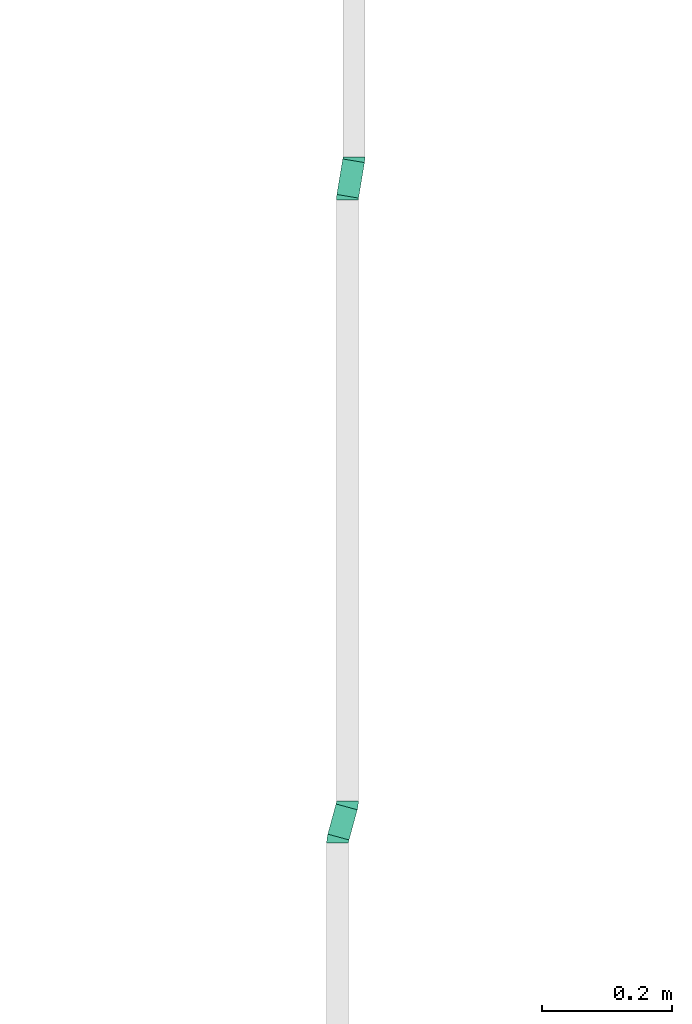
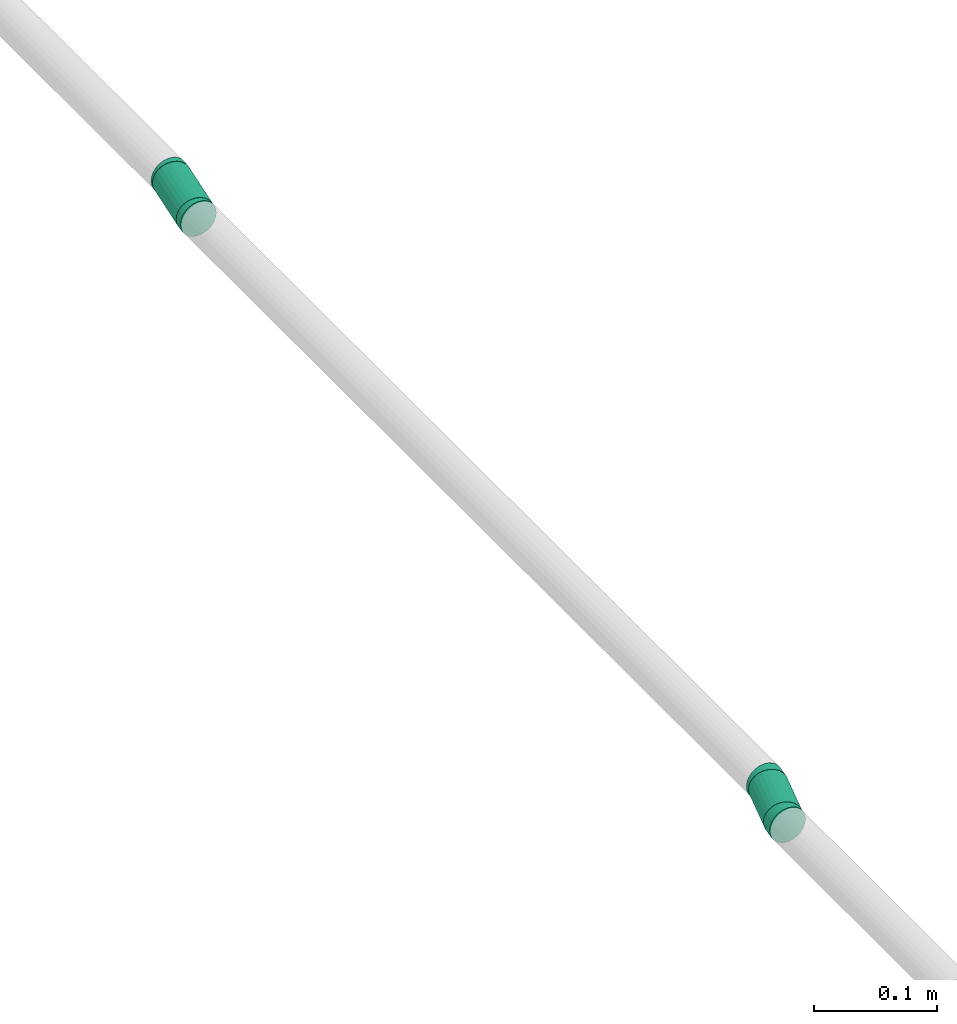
# One storey, part 15 of 32: 4 flow fittings, 2 flow segments.
"""IFC2X3 building model written with IfcOpenShell, lengths in millimetres."""

from ifc_helpers import new_model, entity, si_unit, converted_unit, derived_unit, direction, frame, origin_with_axes, origin_2d_with_axis, place, context, subcontext, project, spatial, hollow_circle, extrude, open_shell, surface_model, source, transform, mapped, type_object, element, save


model = new_model("IFC2X3")

# Units and contexts
model_context = context("Model", 3, precision=0.01, world=frame((0.0, 4.29681676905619e-09, 0.0)), true_north=direction((4.01073788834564e-13, 1.0)))
plan_context = context("Plan", 3, precision=0.01, world=frame((0.0, 4.29681676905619e-09, 0.0)), true_north=direction((4.01073788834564e-13, 1.0)))
body_context = subcontext(model_context, "Body", "Model", "MODEL_VIEW")
ifc_project = project(units=[converted_unit("PLANEANGLEUNIT", "DEGREE", entity("IfcPositiveLengthMeasure", 0.0174532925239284), si_unit("PLANEANGLEUNIT", "RADIAN"), dimensions=[0, 0, 0, 0, 0, 0, 0]), si_unit("AREAUNIT", "SQUARE_METRE"), si_unit("LENGTHUNIT", "METRE", prefix="MILLI"), si_unit("MASSUNIT", "GRAM", prefix="KILO"), si_unit("POWERUNIT", "WATT"), si_unit("PRESSUREUNIT", "PASCAL", prefix="KILO"), si_unit("FORCEUNIT", "NEWTON", prefix="KILO"), si_unit("ELECTRICVOLTAGEUNIT", "VOLT"), si_unit("ELECTRICCURRENTUNIT", "AMPERE"), si_unit("THERMODYNAMICTEMPERATUREUNIT", "DEGREE_CELSIUS"), si_unit("TIMEUNIT", "SECOND"), si_unit("VOLUMEUNIT", "CUBIC_METRE"), derived_unit("LINEARVELOCITYUNIT", [(si_unit("LENGTHUNIT", "METRE"), 1), (si_unit("TIMEUNIT", "SECOND"), -1)]), derived_unit("VOLUMETRICFLOWRATEUNIT", [(si_unit("VOLUMEUNIT", "CUBIC_METRE"), 1), (si_unit("TIMEUNIT", "SECOND"), -1)]), derived_unit("THERMALTRANSMITTANCEUNIT", [(si_unit("POWERUNIT", "WATT"), 1), (si_unit("THERMODYNAMICTEMPERATUREUNIT", "KELVIN"), -1), (si_unit("AREAUNIT", "SQUARE_METRE"), -1)]), derived_unit("SOUNDPRESSUREUNIT", [(si_unit("PRESSUREUNIT", "PASCAL"), 1)])], contexts=[model_context, plan_context])

# Site, building, storey
site_placement = place(None, frame((0.0, -4.29681676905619e-09, 0.0), z_axis=(0.0, 0.0, 1.0), x_axis=(1.0, 0.0, 0.0)))
site = spatial("IfcSite", under=ifc_project, at=site_placement, CompositionType="ELEMENT")
building_placement = place(site_placement, frame((0.0, 4.29681676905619e-09, 0.0), z_axis=(0.0, 0.0, 1.0), x_axis=(1.0, 0.0, 0.0)))
building = spatial("IfcBuilding", under=site, at=building_placement, Name="mc-building", CompositionType="ELEMENT")
storey_placement = place(building_placement, frame((0.0, 0.0, 205200.0), z_axis=(0.0, 0.0, 1.0), x_axis=(1.0, 0.0, 0.0)))
storey = spatial("IfcBuildingStorey", under=building, at=storey_placement, Name="Nivå D + 1,2 m", CompositionType="ELEMENT", Elevation=205200.0)

# Flow fittings
pipe_fitting_type = type_object("IfcPipeFittingType", Name="magi_pipe_fe_elbow_short_001", PredefinedType="BEND")
shared_shape_1 = source(origin_with_axes(), body_context, "Body", "SurfaceModel", [
    surface_model("IfcShellBasedSurfaceModel", [(-4.52358, 4.37404, -16.32415), (-4.52358, 0.0, -16.9), (-4.52358, 11.9501, -11.9501), (-4.52358, 8.45, -14.63583), (-4.52358, 16.32415, -4.37404), (-4.52358, 14.63583, -8.45), (-4.52358, -14.63583, -8.45), (-4.52358, -16.32415, -4.37404), (-4.52358, -8.45, 14.63583), (-4.52358, -11.9501, -11.9501), (-4.52358, -8.45, -14.63583), (-4.52358, -4.37404, -16.32415), (-4.52358, -16.9, 0.0), (-4.52358, -16.32415, 4.37404), (-4.52358, 11.9501, 11.9501), (-4.52358, 16.32415, 4.37404), (-4.52358, 14.63583, 8.45), (-4.52358, 4.37404, 16.32415), (-4.52358, 8.45, 14.63583), (-4.52358, -14.63583, 8.45), (-4.52358, -11.9501, 11.9501), (-4.52358, -4.37404, 16.32415), (-4.52358, 0.0, 16.9), (-4.52358, 16.9, 0.0), (0.07183, 16.93917, -4.37404), (4.36438, 1.18951, -16.9), (3.21419, 5.40962, -16.32415), (2.14239, 9.34213, -14.63583), (0.51578, 15.31026, -8.45), (1.22201, 12.71906, -11.9501), (8.65693, -14.56015, -4.37404), (8.65693, -14.56015, 4.37404), (6.58637, -6.96312, -14.63583), (8.21298, -12.93125, -8.45), (7.50675, -10.34004, -11.9501), (5.51457, -3.0306, -16.32415), (8.80836, -15.11574, 0.0), (0.07183, 16.93917, 4.37404), (7.50675, -10.34004, 11.9501), (-0.0796, 17.49475, 0.0), (1.22201, 12.71906, 11.9501), (0.51578, 15.31026, 8.45), (4.36438, 1.18951, 16.9), (2.14239, 9.34213, 14.63583), (6.58637, -6.96312, 14.63583), (3.21419, 5.40962, 16.32415), (8.21298, -12.93125, 8.45), (5.51457, -3.0306, 16.32415), (-2.28178, 17.04935, 0.0), (2.20182, -16.45196, 0.0)], [open_shell([[[0, 1, 2]], [[3, 0, 2]], [[4, 5, 2]], [[6, 2, 1]], [[2, 7, 8]], [[9, 6, 10]], [[1, 11, 10]], [[1, 10, 6]], [[6, 7, 2]], [[12, 13, 7]], [[4, 2, 14]], [[14, 15, 4]], [[16, 15, 14]], [[17, 18, 14]], [[2, 8, 14]], [[17, 14, 8]], [[19, 20, 13]], [[13, 20, 7]], [[21, 22, 8]], [[20, 8, 7]], [[8, 22, 17]], [[23, 4, 15]], [[24, 25, 26]], [[24, 26, 27]], [[28, 24, 27]], [[28, 27, 29]], [[30, 25, 31]], [[32, 33, 34]], [[32, 35, 25]], [[32, 30, 33]], [[25, 30, 32]], [[30, 31, 36]], [[31, 25, 24]], [[37, 38, 39]], [[40, 37, 41]], [[42, 40, 43]], [[37, 40, 44]], [[43, 45, 42]], [[31, 38, 46]], [[31, 39, 38]], [[44, 42, 47]], [[44, 38, 37]], [[42, 44, 40]], [[39, 31, 24]], [[38, 20, 19]], [[44, 8, 20]], [[47, 21, 8]], [[42, 22, 21]], [[17, 22, 45]], [[13, 46, 19]], [[16, 14, 41]], [[18, 40, 14]], [[48, 15, 37]], [[48, 23, 15]], [[37, 15, 16]], [[43, 18, 17]], [[13, 12, 49]], [[44, 47, 8]], [[20, 38, 44]], [[47, 42, 21]], [[46, 13, 31]], [[19, 46, 38]], [[49, 36, 31]], [[41, 37, 16]], [[39, 48, 37]], [[43, 17, 45]], [[18, 43, 40]], [[41, 14, 40]], [[45, 22, 42]], [[13, 49, 31]], [[1, 35, 11]], [[0, 25, 1]], [[5, 28, 2]], [[2, 27, 3]], [[0, 3, 27]], [[5, 4, 24]], [[49, 12, 7]], [[30, 49, 7]], [[34, 9, 10]], [[7, 6, 30]], [[9, 33, 6]], [[32, 10, 11]], [[4, 23, 48]], [[48, 39, 24]], [[24, 28, 5]], [[27, 2, 29]], [[26, 0, 27]], [[2, 28, 29]], [[26, 25, 0]], [[32, 11, 35]], [[34, 10, 32]], [[6, 33, 30]], [[30, 36, 49]], [[33, 9, 34]], [[25, 35, 1]], [[4, 48, 24]]])]),
])
for number, where, z_axis, x_axis, name in (
    (1, (338467.5, 462153.43146, 4424.13733999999), (0.0, 0.0, 1.0), (-0.262957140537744, -0.964807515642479, 0.0), "magi_pipe_fe_elbow_short_001"),
    (2, (338482.5, 462208.46745, 4424.13733999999), (0.0, 0.0, 1.0), (0.262957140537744, 0.964807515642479, 0.0), "magi_pipe_fe_elbow_short_001"),
):
    element("IfcFlowFitting", number, at=place(storey_placement, frame(where, z_axis=z_axis, x_axis=x_axis)), inside=storey, type_object=pipe_fitting_type, Name=name, context=body_context, shape_type="MappedRepresentation", body=[
        mapped(shared_shape_1, transform((0.0, 0.0, 0.0), scale=1.0)),
    ])
shared_shape_2 = source(origin_with_axes(), body_context, "Body", "SurfaceModel", [
    surface_model("IfcShellBasedSurfaceModel", [(-2.79737, 4.37404, -16.32415), (-2.79737, 0.0, -16.9), (-2.79737, 11.9501, -11.9501), (-2.79737, 8.45, -14.63583), (-2.79737, 16.32415, -4.37404), (-2.79737, 14.63583, -8.45), (-2.79737, -14.63583, -8.45), (-2.79737, -16.32415, -4.37404), (-2.79737, -8.45, 14.63583), (-2.79737, -11.9501, -11.9501), (-2.79737, -8.45, -14.63583), (-2.79737, -4.37404, -16.32415), (-2.79737, -16.9, 0.0), (-2.79737, -16.32415, 4.37404), (-2.79737, 11.9501, 11.9501), (-2.79737, 16.32415, 4.37404), (-2.79737, 14.63583, 8.45), (-2.79737, 4.37404, 16.32415), (-2.79737, 8.45, 14.63583), (-2.79737, -14.63583, 8.45), (-2.79737, -11.9501, 11.9501), (-2.79737, -4.37404, 16.32415), (-2.79737, 0.0, 16.9), (-2.79737, 16.9, 0.0), (2.04022, 4.77441, -16.32415), (5.16543, -13.97681, -8.45), (2.75931, 0.45989, -16.9), (0.07564, 16.56192, -4.37404), (1.37014, 8.79491, -14.63583), (0.3532, 14.89658, -8.45), (0.79473, 12.2474, -11.9501), (4.14848, -7.87514, 14.63583), (5.44299, -15.64215, -4.37404), (4.14848, -7.87514, -14.63583), (4.7239, -11.32763, -11.9501), (3.4784, -3.85464, -16.32415), (5.44299, -15.64215, 4.37404), (5.53766, -16.21017, 0.0), (0.07564, 16.56192, 4.37404), (0.3532, 14.89658, 8.45), (0.79473, 12.2474, 11.9501), (1.37014, 8.79491, 14.63583), (2.04022, 4.77441, 16.32415), (4.7239, -11.32763, 11.9501), (5.16543, -13.97681, 8.45), (2.75931, 0.45989, 16.9), (3.4784, -3.85464, 16.32415), (-0.01903, 17.12994, 0.0), (-1.40345, 16.95758, 0.0), (1.38439, -16.72725, 0.0)], [open_shell([[[0, 1, 2]], [[3, 0, 2]], [[4, 5, 2]], [[6, 2, 1]], [[2, 7, 8]], [[9, 6, 10]], [[1, 11, 10]], [[1, 10, 6]], [[6, 7, 2]], [[12, 13, 7]], [[4, 2, 14]], [[14, 15, 4]], [[16, 15, 14]], [[17, 18, 14]], [[2, 8, 14]], [[17, 14, 8]], [[19, 20, 13]], [[13, 20, 7]], [[21, 22, 8]], [[20, 8, 7]], [[8, 22, 17]], [[23, 4, 15]], [[24, 25, 26]], [[27, 24, 28]], [[29, 27, 28]], [[29, 28, 30]], [[31, 32, 24]], [[33, 25, 34]], [[33, 35, 26]], [[25, 33, 26]], [[24, 32, 25]], [[32, 36, 37]], [[31, 24, 27]], [[38, 39, 27]], [[27, 39, 31]], [[40, 41, 42]], [[39, 40, 31]], [[42, 31, 40]], [[36, 43, 44]], [[43, 36, 31]], [[31, 45, 46]], [[36, 32, 31]], [[42, 45, 31]], [[38, 27, 47]], [[43, 8, 20]], [[20, 19, 44]], [[45, 22, 21]], [[22, 45, 17]], [[21, 8, 31]], [[36, 19, 13]], [[16, 14, 39]], [[18, 40, 14]], [[48, 15, 38]], [[48, 23, 15]], [[38, 15, 16]], [[41, 18, 17]], [[13, 12, 49]], [[31, 46, 21]], [[8, 43, 31]], [[46, 45, 21]], [[19, 36, 44]], [[20, 44, 43]], [[36, 49, 37]], [[39, 38, 16]], [[47, 48, 38]], [[41, 17, 42]], [[18, 41, 40]], [[39, 14, 40]], [[42, 17, 45]], [[13, 49, 36]], [[11, 1, 26]], [[1, 0, 26]], [[29, 2, 5]], [[3, 2, 30]], [[3, 28, 0]], [[4, 27, 5]], [[49, 12, 7]], [[32, 49, 7]], [[34, 9, 10]], [[7, 6, 32]], [[9, 25, 6]], [[33, 10, 11]], [[4, 23, 48]], [[48, 47, 27]], [[27, 29, 5]], [[3, 30, 28]], [[0, 28, 24]], [[2, 29, 30]], [[24, 26, 0]], [[33, 11, 35]], [[34, 10, 33]], [[6, 25, 32]], [[32, 37, 49]], [[25, 9, 34]], [[26, 35, 11]], [[4, 48, 27]]])]),
])
for number, where, z_axis, x_axis, name in (
    (3, (338482.5, 463138.46745, 4424.13733999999), (0.0, 0.0, 1.0), (-0.164398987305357, -0.986393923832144, 0.0), "magi_pipe_fe_elbow_short_001"),
    (4, (338492.5, 463198.46745, 4424.13733999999), (0.0, 0.0, 1.0), (0.164398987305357, 0.986393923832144, 0.0), "magi_pipe_fe_elbow_short_001"),
):
    element("IfcFlowFitting", number, at=place(storey_placement, frame(where, z_axis=z_axis, x_axis=x_axis)), inside=storey, type_object=pipe_fitting_type, Name=name, context=body_context, shape_type="MappedRepresentation", body=[
        mapped(shared_shape_2, transform((0.0, 0.0, 0.0), scale=1.0)),
    ])

# Flow segments
pipe_segment_type = type_object("IfcPipeSegmentType", Name="Stålrør normaltykke", PredefinedType="RIGIDSEGMENT")
shared_shape_3 = source(origin_with_axes(), body_context, "Body", "SweptSolid", [
    extrude(hollow_circle(Radius=16.9, WallThickness=2.0, at=origin_2d_with_axis()), frame((0.0, 0.0, 0.0), z_axis=(1.0, 0.0, 0.0), x_axis=(0.0, 1.0, 0.0)), (0.0, 0.0, 1.0), 48.0),
])
flow_segment_1_placement = place(storey_placement, frame((338468.68951, 462157.79584, 4424.13733999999), z_axis=(0.0, 0.0, 1.0), x_axis=(0.262957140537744, 0.964807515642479, 0.0)))
element("IfcFlowSegment", 5, at=flow_segment_1_placement, inside=storey, type_object=pipe_segment_type, Name="Stålrør normaltykke", context=body_context, shape_type="MappedRepresentation", body=[
    mapped(shared_shape_3, transform((0.0, 0.0, 0.0), scale=1.0)),
])
shared_shape_4 = source(origin_with_axes(), body_context, "Body", "SweptSolid", [
    extrude(hollow_circle(Radius=16.9, WallThickness=2.0, at=origin_2d_with_axis()), frame((0.0, 0.0, 0.0), z_axis=(1.0, 0.0, 0.0), x_axis=(0.0, 1.0, 0.0)), (0.0, 0.0, 1.0), 55.2),
])
flow_segment_2_placement = place(storey_placement, frame((338482.95989, 463141.22676, 4424.13733999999), z_axis=(0.0, 0.0, 1.0), x_axis=(0.164398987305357, 0.986393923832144, 0.0)))
element("IfcFlowSegment", 6, at=flow_segment_2_placement, inside=storey, type_object=pipe_segment_type, Name="Stålrør normaltykke", context=body_context, shape_type="MappedRepresentation", body=[
    mapped(shared_shape_4, transform((0.0, 0.0, 0.0), scale=1.0)),
])

save(model, "model.ifc")
